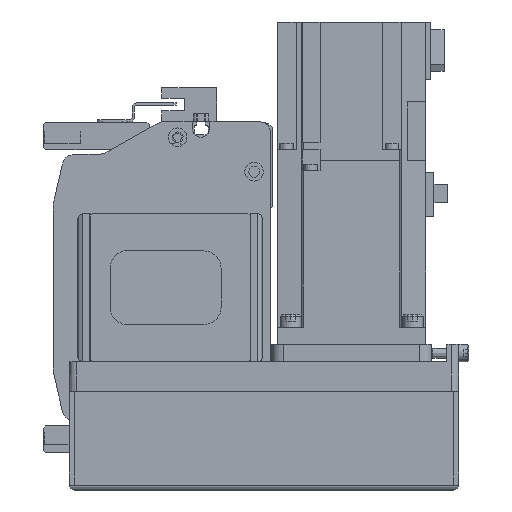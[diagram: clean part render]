
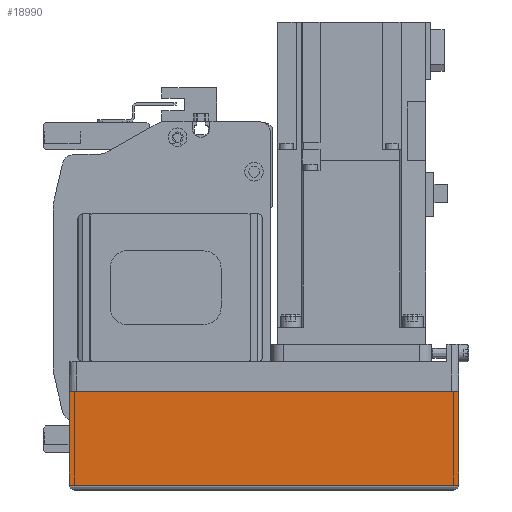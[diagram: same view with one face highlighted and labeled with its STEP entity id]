
A CAD part, left-side view. The second image highlights one B-rep face of the part: STEP entity #18990.
In plain terms, the highlighted planar face has unit normal (-1, 0, 0) as drawn and (0, 1, 0) by its records, which use the part's own axes.
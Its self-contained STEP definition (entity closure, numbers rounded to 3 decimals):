
#2922=ORIENTED_EDGE('',*,*,#7607,.F.);
#2923=ORIENTED_EDGE('',*,*,#7676,.F.);
#2924=ORIENTED_EDGE('',*,*,#7624,.T.);
#2925=ORIENTED_EDGE('',*,*,#7599,.T.);
#7599=EDGE_CURVE('',#10128,#10127,#12069,.T.);
#7607=EDGE_CURVE('',#10135,#10127,#12077,.T.);
#7624=EDGE_CURVE('',#10145,#10128,#12090,.T.);
#7676=EDGE_CURVE('',#10145,#10135,#12119,.T.);
#10127=VERTEX_POINT('',#29106);
#10128=VERTEX_POINT('',#29108);
#10135=VERTEX_POINT('',#29125);
#10145=VERTEX_POINT('',#29156);
#12069=LINE('',#29107,#13759);
#12077=LINE('',#29124,#13767);
#12090=LINE('',#29155,#13780);
#12119=LINE('',#29250,#13809);
#13759=VECTOR('',#23289,1000.);
#13767=VECTOR('',#23301,1000.);
#13780=VECTOR('',#23330,1000.);
#13809=VECTOR('',#23447,1000.);
#15326=EDGE_LOOP('',(#2922,#2923,#2924,#2925));
#16856=FACE_BOUND('',#15326,.T.);
#18215=PLANE('',#20367);
#18990=ADVANCED_FACE('',(#16856),#18215,.T.);
#20367=AXIS2_PLACEMENT_3D('',#29249,#23445,#23446);
#23289=DIRECTION('',(1.,0.,0.));
#23301=DIRECTION('',(0.,0.,1.));
#23330=DIRECTION('',(0.,0.,1.));
#23445=DIRECTION('',(0.,1.,0.));
#23446=DIRECTION('',(0.,0.,1.));
#23447=DIRECTION('',(1.,0.,0.));
#29106=CARTESIAN_POINT('',(0.,39.,-12.1));
#29107=CARTESIAN_POINT('',(-158.,39.,-12.1));
#29108=CARTESIAN_POINT('',(-158.,39.,-12.1));
#29124=CARTESIAN_POINT('',(0.,39.,-50.));
#29125=CARTESIAN_POINT('',(0.,39.,-50.));
#29155=CARTESIAN_POINT('',(-158.,39.,-50.));
#29156=CARTESIAN_POINT('',(-158.,39.,-50.));
#29249=CARTESIAN_POINT('',(-158.,39.,-50.));
#29250=CARTESIAN_POINT('',(-158.,39.,-50.));
